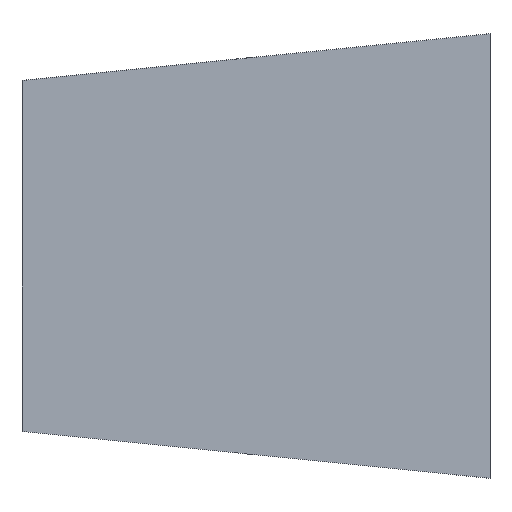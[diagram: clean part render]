
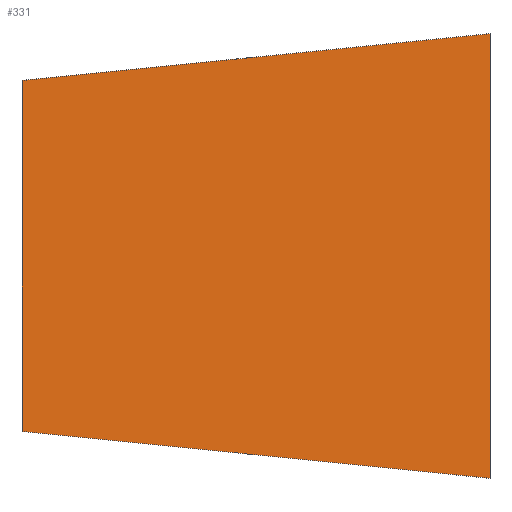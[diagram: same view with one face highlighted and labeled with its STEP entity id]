
A CAD part, top view. The second image highlights one B-rep face of the part: STEP entity #331.
In plain terms, the highlighted planar face has unit normal (0.1, 0, 0.995).
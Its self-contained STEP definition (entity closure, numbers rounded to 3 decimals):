
#22 = VERTEX_POINT('',#23);
#23 = CARTESIAN_POINT('',(860.,-150.,-125.));
#32 = PLANE('',#33);
#33 = AXIS2_PLACEMENT_3D('',#34,#35,#36);
#34 = CARTESIAN_POINT('',(860.,-150.,-125.));
#35 = DIRECTION('',(1.,-0.,0.));
#36 = DIRECTION('',(0.,1.,0.));
#44 = PLANE('',#45);
#45 = AXIS2_PLACEMENT_3D('',#46,#47,#48);
#46 = CARTESIAN_POINT('',(1260.,-190.,-165.));
#47 = DIRECTION('',(0.1,0.995,0.));
#48 = DIRECTION('',(-0.99,0.099,
    0.099));
#85 = VERTEX_POINT('',#86);
#86 = CARTESIAN_POINT('',(860.,150.,-125.));
#100 = PLANE('',#101);
#101 = AXIS2_PLACEMENT_3D('',#102,#103,#104);
#102 = CARTESIAN_POINT('',(860.,150.,-125.));
#103 = DIRECTION('',(0.1,-0.995,0.));
#104 = DIRECTION('',(0.99,0.099,
    -0.099));
#112 = EDGE_CURVE('',#22,#85,#113,.T.);
#113 = SURFACE_CURVE('',#114,(#118,#125),.PCURVE_S1.);
#114 = LINE('',#115,#116);
#115 = CARTESIAN_POINT('',(860.,-150.,-125.));
#116 = VECTOR('',#117,1.);
#117 = DIRECTION('',(0.,1.,0.));
#118 = PCURVE('',#32,#119);
#119 = DEFINITIONAL_REPRESENTATION('',(#120),#124);
#120 = LINE('',#121,#122);
#121 = CARTESIAN_POINT('',(0.,0.));
#122 = VECTOR('',#123,1.);
#123 = DIRECTION('',(1.,0.));
#124 = ( GEOMETRIC_REPRESENTATION_CONTEXT(2) 
PARAMETRIC_REPRESENTATION_CONTEXT() REPRESENTATION_CONTEXT('2D SPACE',''
  ) );
#125 = PCURVE('',#126,#131);
#126 = PLANE('',#127);
#127 = AXIS2_PLACEMENT_3D('',#128,#129,#130);
#128 = CARTESIAN_POINT('',(1070.753,0.,
    -146.075));
#129 = DIRECTION('',(-0.1,-0.,-0.995));
#130 = DIRECTION('',(-0.995,0.,0.1));
#131 = DEFINITIONAL_REPRESENTATION('',(#132),#136);
#132 = LINE('',#133,#134);
#133 = CARTESIAN_POINT('',(211.804,-150.));
#134 = VECTOR('',#135,1.);
#135 = DIRECTION('',(0.,1.));
#136 = ( GEOMETRIC_REPRESENTATION_CONTEXT(2) 
PARAMETRIC_REPRESENTATION_CONTEXT() REPRESENTATION_CONTEXT('2D SPACE',''
  ) );
#166 = VERTEX_POINT('',#167);
#167 = CARTESIAN_POINT('',(1260.,190.,-165.));
#181 = PLANE('',#182);
#182 = AXIS2_PLACEMENT_3D('',#183,#184,#185);
#183 = CARTESIAN_POINT('',(1260.,190.,-165.));
#184 = DIRECTION('',(-1.,-0.,-0.));
#185 = DIRECTION('',(0.,-1.,0.));
#193 = EDGE_CURVE('',#85,#166,#194,.T.);
#194 = SURFACE_CURVE('',#195,(#199,#206),.PCURVE_S1.);
#195 = LINE('',#196,#197);
#196 = CARTESIAN_POINT('',(860.,150.,-125.));
#197 = VECTOR('',#198,1.);
#198 = DIRECTION('',(0.99,0.099,
    -0.099));
#199 = PCURVE('',#100,#200);
#200 = DEFINITIONAL_REPRESENTATION('',(#201),#205);
#201 = LINE('',#202,#203);
#202 = CARTESIAN_POINT('',(0.,0.));
#203 = VECTOR('',#204,1.);
#204 = DIRECTION('',(1.,0.));
#205 = ( GEOMETRIC_REPRESENTATION_CONTEXT(2) 
PARAMETRIC_REPRESENTATION_CONTEXT() REPRESENTATION_CONTEXT('2D SPACE',''
  ) );
#206 = PCURVE('',#126,#207);
#207 = DEFINITIONAL_REPRESENTATION('',(#208),#212);
#208 = LINE('',#209,#210);
#209 = CARTESIAN_POINT('',(211.804,150.));
#210 = VECTOR('',#211,1.);
#211 = DIRECTION('',(-0.995,0.099));
#212 = ( GEOMETRIC_REPRESENTATION_CONTEXT(2) 
PARAMETRIC_REPRESENTATION_CONTEXT() REPRESENTATION_CONTEXT('2D SPACE',''
  ) );
#242 = VERTEX_POINT('',#243);
#243 = CARTESIAN_POINT('',(1260.,-190.,-165.));
#264 = EDGE_CURVE('',#166,#242,#265,.T.);
#265 = SURFACE_CURVE('',#266,(#270,#277),.PCURVE_S1.);
#266 = LINE('',#267,#268);
#267 = CARTESIAN_POINT('',(1260.,190.,-165.));
#268 = VECTOR('',#269,1.);
#269 = DIRECTION('',(0.,-1.,0.));
#270 = PCURVE('',#181,#271);
#271 = DEFINITIONAL_REPRESENTATION('',(#272),#276);
#272 = LINE('',#273,#274);
#273 = CARTESIAN_POINT('',(0.,0.));
#274 = VECTOR('',#275,1.);
#275 = DIRECTION('',(1.,0.));
#276 = ( GEOMETRIC_REPRESENTATION_CONTEXT(2) 
PARAMETRIC_REPRESENTATION_CONTEXT() REPRESENTATION_CONTEXT('2D SPACE',''
  ) );
#277 = PCURVE('',#126,#278);
#278 = DEFINITIONAL_REPRESENTATION('',(#279),#283);
#279 = LINE('',#280,#281);
#280 = CARTESIAN_POINT('',(-190.191,190.));
#281 = VECTOR('',#282,1.);
#282 = DIRECTION('',(0.,-1.));
#283 = ( GEOMETRIC_REPRESENTATION_CONTEXT(2) 
PARAMETRIC_REPRESENTATION_CONTEXT() REPRESENTATION_CONTEXT('2D SPACE',''
  ) );
#311 = EDGE_CURVE('',#242,#22,#312,.T.);
#312 = SURFACE_CURVE('',#313,(#317,#324),.PCURVE_S1.);
#313 = LINE('',#314,#315);
#314 = CARTESIAN_POINT('',(1260.,-190.,-165.));
#315 = VECTOR('',#316,1.);
#316 = DIRECTION('',(-0.99,0.099,
    0.099));
#317 = PCURVE('',#44,#318);
#318 = DEFINITIONAL_REPRESENTATION('',(#319),#323);
#319 = LINE('',#320,#321);
#320 = CARTESIAN_POINT('',(0.,0.));
#321 = VECTOR('',#322,1.);
#322 = DIRECTION('',(1.,0.));
#323 = ( GEOMETRIC_REPRESENTATION_CONTEXT(2) 
PARAMETRIC_REPRESENTATION_CONTEXT() REPRESENTATION_CONTEXT('2D SPACE',''
  ) );
#324 = PCURVE('',#126,#325);
#325 = DEFINITIONAL_REPRESENTATION('',(#326),#330);
#326 = LINE('',#327,#328);
#327 = CARTESIAN_POINT('',(-190.191,-190.));
#328 = VECTOR('',#329,1.);
#329 = DIRECTION('',(0.995,0.099));
#330 = ( GEOMETRIC_REPRESENTATION_CONTEXT(2) 
PARAMETRIC_REPRESENTATION_CONTEXT() REPRESENTATION_CONTEXT('2D SPACE',''
  ) );
#331 = ADVANCED_FACE('',(#332),#126,.F.);
#332 = FACE_BOUND('',#333,.F.);
#333 = EDGE_LOOP('',(#334,#335,#336,#337));
#334 = ORIENTED_EDGE('',*,*,#112,.T.);
#335 = ORIENTED_EDGE('',*,*,#193,.T.);
#336 = ORIENTED_EDGE('',*,*,#264,.T.);
#337 = ORIENTED_EDGE('',*,*,#311,.T.);
